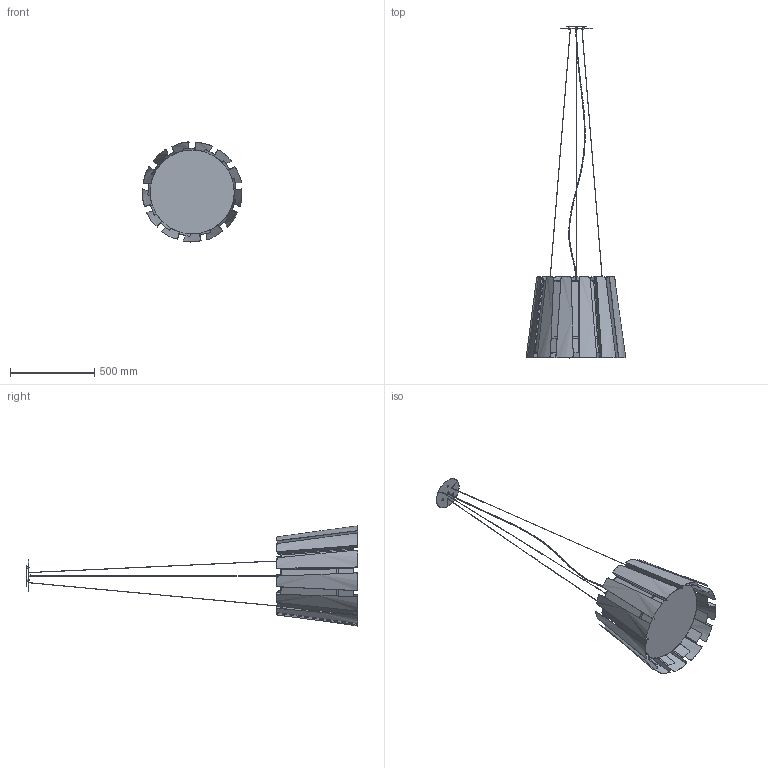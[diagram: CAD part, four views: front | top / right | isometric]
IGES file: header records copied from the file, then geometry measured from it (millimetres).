
Start section: SolidWorks IGES file using analytic representation for surfaces
Global section: file name: C:\Users\libre2.DOMINIO\Desktop\CARPYEN\3D\NAHTRANG\twist\twist L\twist XL.IGS; native system: SolidWorks 2014; preprocessor: SolidWorks 2014; author: libre2; date: 160804.105401; units: millimetre
Bounding box: 594.9 x 1974.65 x 595 mm (x, y, z)
Surface area: 2907984.9 mm2 (no closed solid volume)
Topology: 0 solids, 0 shells, 937 faces, 11459 edges, 11451 vertices
Faces by surface type: bspline 545, revolution 392
